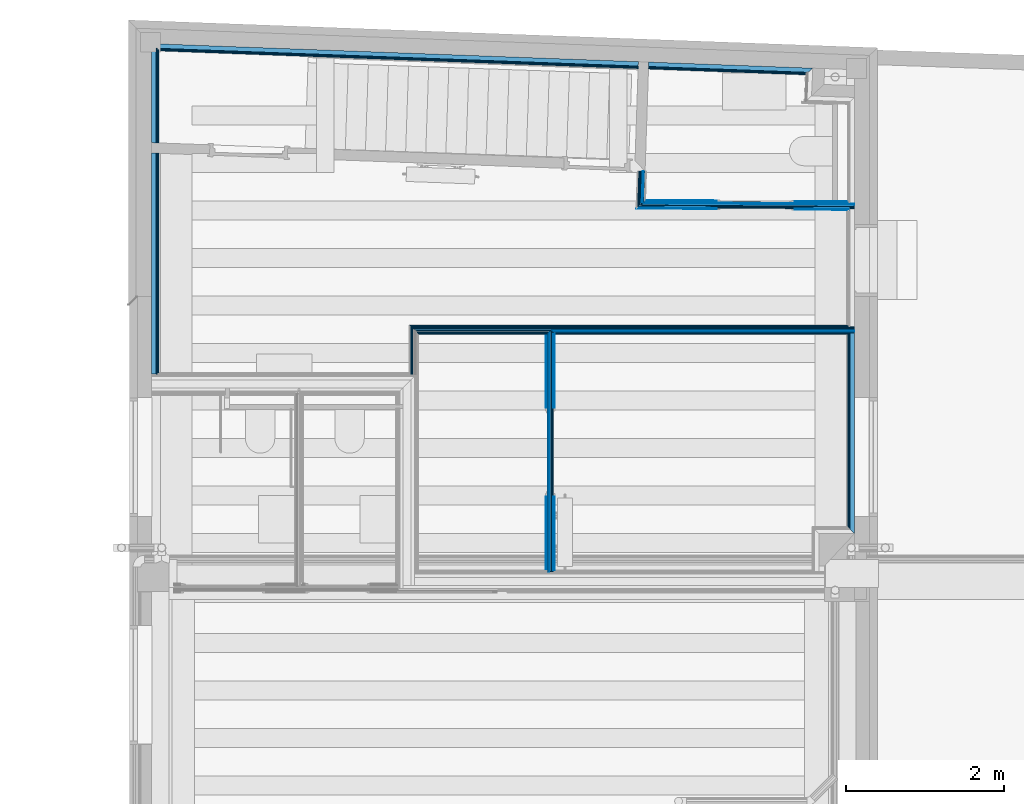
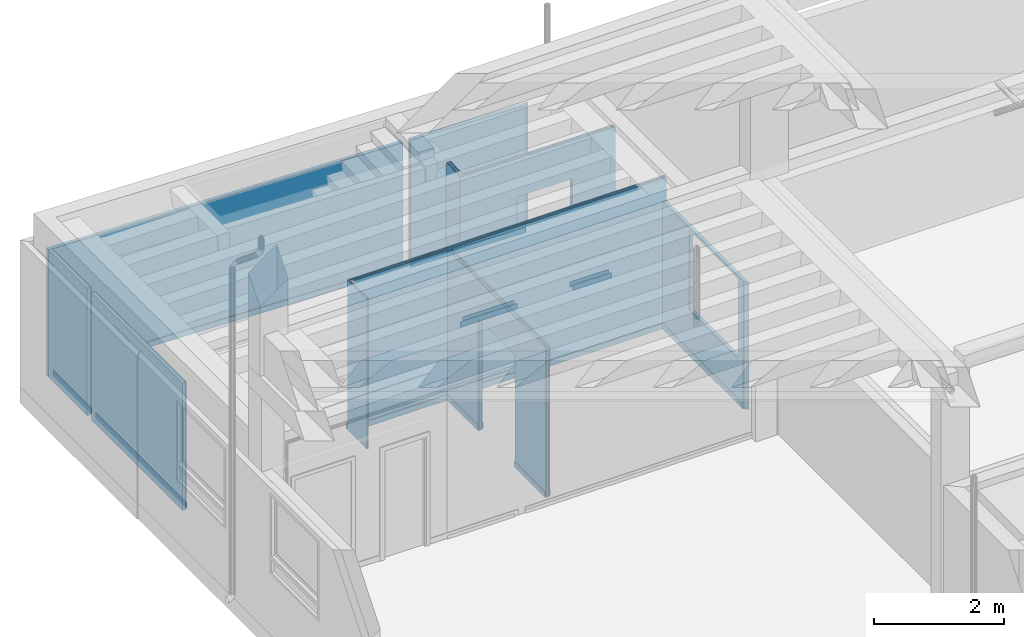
# One storey, part 11 of 108: 45 building element parts, 3 openings, 10 elements without a shape of their own.
"""IFC2X3 building model written with IfcOpenShell, lengths in metres."""

from ifc_helpers import new_model, entity, si_unit, converted_unit, derived_unit, money_unit, direction, frame, frame_2d, origin_with_axes, place, context, subcontext, project, spatial, polyline, rectangle, outline, extrude, faceted_brep, material, type_object, element, aggregate, save


model = new_model("IFC2X3")

# Units and contexts
model_context = context("Model", 3, precision=1e-05, world=origin_with_axes(), true_north=direction((0.0, 1.0)))
body_context = subcontext(model_context, "Body", "Model", "MODEL_VIEW", scale=1.0)
ifc_project = project(units=[si_unit("LENGTHUNIT", "METRE"), si_unit("AREAUNIT", "SQUARE_METRE"), si_unit("VOLUMEUNIT", "CUBIC_METRE"), si_unit("ABSORBEDDOSEUNIT", "GRAY"), si_unit("AMOUNTOFSUBSTANCEUNIT", "MOLE"), si_unit("DOSEEQUIVALENTUNIT", "SIEVERT"), si_unit("ELECTRICCAPACITANCEUNIT", "FARAD"), si_unit("ELECTRICCHARGEUNIT", "COULOMB"), si_unit("ELECTRICCONDUCTANCEUNIT", "SIEMENS"), si_unit("ELECTRICCURRENTUNIT", "AMPERE"), si_unit("ELECTRICRESISTANCEUNIT", "OHM"), si_unit("ELECTRICVOLTAGEUNIT", "VOLT"), si_unit("ENERGYUNIT", "JOULE"), si_unit("FORCEUNIT", "NEWTON"), si_unit("FREQUENCYUNIT", "HERTZ"), si_unit("ILLUMINANCEUNIT", "LUX"), si_unit("INDUCTANCEUNIT", "HENRY"), si_unit("LUMINOUSFLUXUNIT", "LUMEN"), si_unit("LUMINOUSINTENSITYUNIT", "CANDELA"), si_unit("MAGNETICFLUXDENSITYUNIT", "TESLA"), si_unit("MAGNETICFLUXUNIT", "WEBER"), si_unit("MASSUNIT", "GRAM"), converted_unit("PLANEANGLEUNIT", "degree", entity("IfcReal", 0.0174532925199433), si_unit("PLANEANGLEUNIT", "RADIAN"), dimensions=[0, 0, 0, 0, 0, 0, 0]), si_unit("POWERUNIT", "WATT"), si_unit("PRESSUREUNIT", "PASCAL"), si_unit("RADIOACTIVITYUNIT", "BECQUEREL"), si_unit("SOLIDANGLEUNIT", "STERADIAN"), si_unit("THERMODYNAMICTEMPERATUREUNIT", "KELVIN"), si_unit("TIMEUNIT", "SECOND"), derived_unit("ACCELERATIONUNIT", [(si_unit("LENGTHUNIT", "METRE"), 1), (si_unit("TIMEUNIT", "SECOND"), -2)]), derived_unit("ANGULARVELOCITYUNIT", [(converted_unit("PLANEANGLEUNIT", "degree", entity("IfcReal", 0.0174532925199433), si_unit("PLANEANGLEUNIT", "RADIAN"), dimensions=[0, 0, 0, 0, 0, 0, 0]), 1), (si_unit("TIMEUNIT", "SECOND"), -1)]), derived_unit("CURVATUREUNIT", [(converted_unit("PLANEANGLEUNIT", "degree", entity("IfcReal", 0.0174532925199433), si_unit("PLANEANGLEUNIT", "RADIAN"), dimensions=[0, 0, 0, 0, 0, 0, 0]), 1), (si_unit("LENGTHUNIT", "METRE"), -1)]), derived_unit("DYNAMICVISCOSITYUNIT", [(si_unit("PRESSUREUNIT", "PASCAL"), 1), (si_unit("TIMEUNIT", "SECOND"), 1)]), derived_unit("HEATFLUXDENSITYUNIT", [(si_unit("POWERUNIT", "WATT"), 1), (si_unit("LENGTHUNIT", "METRE"), -2)]), derived_unit("HEATINGVALUEUNIT", [(si_unit("ENERGYUNIT", "JOULE"), 1), (si_unit("MASSUNIT", "GRAM"), -1)]), derived_unit("INTEGERCOUNTRATEUNIT", [(si_unit("TIMEUNIT", "SECOND"), -1)]), derived_unit("IONCONCENTRATIONUNIT", [(si_unit("MASSUNIT", "GRAM"), 1), (si_unit("VOLUMEUNIT", "CUBIC_METRE"), -1)]), derived_unit("ISOTHERMALMOISTURECAPACITYUNIT", [(si_unit("VOLUMEUNIT", "CUBIC_METRE"), 1), (si_unit("MASSUNIT", "GRAM"), -1)]), derived_unit("KINEMATICVISCOSITYUNIT", [(si_unit("AREAUNIT", "SQUARE_METRE"), 1), (si_unit("TIMEUNIT", "SECOND"), -1)]), derived_unit("LINEARFORCEUNIT", [(si_unit("FORCEUNIT", "NEWTON"), 1), (si_unit("LENGTHUNIT", "METRE"), -1)]), derived_unit("LINEARMOMENTUNIT", [(si_unit("FORCEUNIT", "NEWTON"), 1), (si_unit("LENGTHUNIT", "METRE"), -1)]), derived_unit("LINEARSTIFFNESSUNIT", [(si_unit("FORCEUNIT", "NEWTON"), 1), (si_unit("LENGTHUNIT", "METRE"), -1)]), derived_unit("LINEARVELOCITYUNIT", [(si_unit("LENGTHUNIT", "METRE"), 1), (si_unit("TIMEUNIT", "SECOND"), -1)]), derived_unit("LUMINOUSINTENSITYDISTRIBUTIONUNIT", [(si_unit("LUMINOUSINTENSITYUNIT", "CANDELA"), 1), (si_unit("LUMINOUSFLUXUNIT", "LUMEN"), -1)]), derived_unit("MASSDENSITYUNIT", [(si_unit("MASSUNIT", "GRAM"), 1), (si_unit("VOLUMEUNIT", "CUBIC_METRE"), -1)]), derived_unit("MASSFLOWRATEUNIT", [(si_unit("MASSUNIT", "GRAM"), 1), (si_unit("TIMEUNIT", "SECOND"), -1)]), derived_unit("MASSPERLENGTHUNIT", [(si_unit("MASSUNIT", "GRAM"), 1), (si_unit("LENGTHUNIT", "METRE"), -1)]), derived_unit("MODULUSOFELASTICITYUNIT", [(si_unit("FORCEUNIT", "NEWTON"), 1), (si_unit("AREAUNIT", "SQUARE_METRE"), -1)]), derived_unit("MODULUSOFLINEARSUBGRADEREACTIONUNIT", [(si_unit("FORCEUNIT", "NEWTON"), 1), (si_unit("LENGTHUNIT", "METRE"), -2)]), derived_unit("MODULUSOFROTATIONALSUBGRADEREACTIONUNIT", [(si_unit("FORCEUNIT", "NEWTON"), 1), (si_unit("LENGTHUNIT", "METRE"), 1)]), derived_unit("MODULUSOFSUBGRADEREACTIONUNIT", [(si_unit("FORCEUNIT", "NEWTON"), 1), (si_unit("VOLUMEUNIT", "CUBIC_METRE"), -1)]), derived_unit("MOISTUREDIFFUSIVITYUNIT", [(si_unit("VOLUMEUNIT", "CUBIC_METRE"), 1), (si_unit("TIMEUNIT", "SECOND"), -1)]), derived_unit("MOLECULARWEIGHTUNIT", [(si_unit("MASSUNIT", "GRAM"), 1), (si_unit("AMOUNTOFSUBSTANCEUNIT", "MOLE"), -1)]), derived_unit("PLANARFORCEUNIT", [(si_unit("FORCEUNIT", "NEWTON"), 1), (si_unit("LENGTHUNIT", "METRE"), -2)]), derived_unit("ROTATIONALFREQUENCYUNIT", [(si_unit("TIMEUNIT", "SECOND"), -1)]), derived_unit("ROTATIONALMASSUNIT", [(si_unit("MASSUNIT", "GRAM"), 1), (si_unit("LENGTHUNIT", "METRE"), 2)]), derived_unit("ROTATIONALSTIFFNESSUNIT", [(si_unit("FORCEUNIT", "NEWTON"), 1), (si_unit("LENGTHUNIT", "METRE"), 1), (converted_unit("PLANEANGLEUNIT", "degree", entity("IfcReal", 0.0174532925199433), si_unit("PLANEANGLEUNIT", "RADIAN"), dimensions=[0, 0, 0, 0, 0, 0, 0]), -1)]), derived_unit("SECTIONAREAINTEGRALUNIT", [(si_unit("LENGTHUNIT", "METRE"), 5)]), derived_unit("SECTIONMODULUSUNIT", [(si_unit("LENGTHUNIT", "METRE"), 3)]), derived_unit("SHEARMODULUSUNIT", [(si_unit("FORCEUNIT", "NEWTON"), 1), (si_unit("AREAUNIT", "SQUARE_METRE"), -1)]), derived_unit("SOUNDPOWERUNIT", [(si_unit("ENERGYUNIT", "JOULE"), 1), (si_unit("TIMEUNIT", "SECOND"), -1)]), derived_unit("SPECIFICHEATCAPACITYUNIT", [(si_unit("FORCEUNIT", "NEWTON"), 1), (si_unit("MASSUNIT", "GRAM"), -1), (si_unit("THERMODYNAMICTEMPERATUREUNIT", "KELVIN"), -1)]), derived_unit("TEMPERATUREGRADIENTUNIT", [(si_unit("THERMODYNAMICTEMPERATUREUNIT", "KELVIN"), 1), (si_unit("LENGTHUNIT", "METRE"), -1)]), derived_unit("THERMALADMITTANCEUNIT", [(si_unit("POWERUNIT", "WATT"), 1), (si_unit("AREAUNIT", "SQUARE_METRE"), -1), (si_unit("THERMODYNAMICTEMPERATUREUNIT", "KELVIN"), -1)]), derived_unit("THERMALCONDUCTANCEUNIT", [(si_unit("POWERUNIT", "WATT"), 1), (si_unit("LENGTHUNIT", "METRE"), -1), (si_unit("THERMODYNAMICTEMPERATUREUNIT", "KELVIN"), -1)]), derived_unit("THERMALEXPANSIONCOEFFICIENTUNIT", [(si_unit("THERMODYNAMICTEMPERATUREUNIT", "KELVIN"), -1)]), derived_unit("THERMALRESISTANCEUNIT", [(si_unit("AREAUNIT", "SQUARE_METRE"), 1), (si_unit("POWERUNIT", "WATT"), -1)]), derived_unit("THERMALTRANSMITTANCEUNIT", [(si_unit("POWERUNIT", "WATT"), 1), (si_unit("AREAUNIT", "SQUARE_METRE"), -1), (si_unit("THERMODYNAMICTEMPERATUREUNIT", "KELVIN"), -1)]), derived_unit("TORQUEUNIT", [(si_unit("FORCEUNIT", "NEWTON"), 1), (si_unit("LENGTHUNIT", "METRE"), 1)]), derived_unit("VAPORPERMEABILITYUNIT", [(si_unit("MASSUNIT", "GRAM"), 1), (si_unit("TIMEUNIT", "SECOND"), -1)]), derived_unit("VOLUMETRICFLOWRATEUNIT", [(si_unit("VOLUMEUNIT", "CUBIC_METRE"), 1), (si_unit("TIMEUNIT", "SECOND"), -1)]), derived_unit("WARPINGCONSTANTUNIT", [(si_unit("LENGTHUNIT", "METRE"), 6)]), derived_unit("WARPINGMOMENTUNIT", [(si_unit("FORCEUNIT", "NEWTON"), 1), (si_unit("LENGTHUNIT", "METRE"), 2)]), money_unit("GBP")], contexts=[model_context])

# Site, building, storey
site_placement = place(None, origin_with_axes())
site = spatial("IfcSite", under=ifc_project, at=site_placement, Name="Site", CompositionType="ELEMENT")
building_placement = place(site_placement, origin_with_axes())
building = spatial("IfcBuilding", under=site, at=building_placement, Name="Building01", CompositionType="ELEMENT")
storey_placement = place(building_placement, origin_with_axes())
storey = spatial("IfcBuildingStorey", under=building, at=storey_placement, Name="GF", CompositionType="ELEMENT", Elevation=0.0)

# Wall, building element parts
wall_type_1 = type_object("IfcWallType", Name="SHE_A-Walls_Type05b_Partition_80mm", PredefinedType="NOTDEFINED")
wall_1_placement = place(storey_placement, frame((3.603525, 17.143647, 0.148), z_axis=(0.0, 0.0, 1.0), x_axis=(0.0, 1.0, 0.0)))
wall_1 = element("IfcWall", 1, at=wall_1_placement, inside=storey, type_object=wall_type_1, Name="5B", ObjectType="SHE_A-Walls_Type05b_Partition_80mm")
ifc_material_1 = material(Name="Air Cavity")
placement_1 = place(wall_1_placement, origin_with_axes())
building_element_part_1 = element("IfcBuildingElementPart", 2, at=placement_1, material=ifc_material_1, Name="5", context=body_context, shape_type="SweptSolid", body=[
    extrude(outline(polyline([(0.584924, 0.038), (0.0, 0.038), (0.0, 0.025), (0.571924, 0.025), (0.584924, 0.038)])), origin_with_axes(), (0.0, 0.0, 1.0), 2.812),
])
ifc_material_2 = material(Name="A_BSUK_WallInternal_Finishes_Plasterboard")
building_element_part_2 = element("IfcBuildingElementPart", 3, at=placement_1, material=ifc_material_2, Name="6", context=body_context, shape_type="SweptSolid", body=[
    extrude(outline(polyline([(0.599924, 0.053), (0.0, 0.053), (0.0, 0.038), (0.584924, 0.038), (0.599924, 0.053)])), origin_with_axes(), (0.0, 0.0, 1.0), 2.812),
])
aggregate(wall_1, [building_element_part_1, building_element_part_2])

wall_2_placement = place(storey_placement, frame((3.603525, 17.690571, 0.148), z_axis=(0.0, 0.0, 1.0), x_axis=(1.0, 0.0, 0.0)))
wall_2 = element("IfcWall", 4, at=wall_2_placement, inside=storey, type_object=wall_type_1, Name="5B", ObjectType="SHE_A-Walls_Type05b_Partition_80mm")
ifc_material_3 = material(Name="A_BSUK_Walls_Timber")
placement_2 = place(wall_2_placement, origin_with_axes())
building_element_part_3 = element("IfcBuildingElementPart", 5, at=placement_2, material=ifc_material_3, Name="1", context=body_context, shape_type="SweptSolid", body=[
    extrude(outline(polyline([(1.670731, -0.027), (0.027, -0.027), (0.042, -0.042), (1.670731, -0.042), (1.670731, -0.027)])), frame((0.0, 0.0, 0.015), z_axis=(0.0, 0.0, 1.0), x_axis=(1.0, 0.0, 0.0)), (0.0, 0.0, 1.0), 0.1),
])
building_element_part_4 = element("IfcBuildingElementPart", 6, at=placement_2, material=ifc_material_3, Name="2", context=body_context, shape_type="SweptSolid", body=[
    extrude(rectangle(XDim=3.728009, YDim=0.015, at=frame_2d((3.614736, -0.0345), x_axis=(-1.0, 0.0))), frame((0.0, 0.0, 0.015), z_axis=(0.0, 0.0, 1.0), x_axis=(1.0, 0.0, 0.0)), (0.0, 0.0, 1.0), 0.1),
])
building_element_part_5 = element("IfcBuildingElementPart", 7, at=placement_2, material=ifc_material_2, Name="3", context=body_context, shape_type="SweptSolid", body=[
    extrude(outline(polyline([(1.685731, -0.012), (0.012, -0.012), (0.027, -0.027), (1.685731, -0.027), (1.685731, -0.012)])), origin_with_axes(), (0.0, 0.0, 1.0), 2.812),
])
building_element_part_6 = element("IfcBuildingElementPart", 8, at=placement_2, material=ifc_material_2, Name="4", context=body_context, shape_type="SweptSolid", body=[
    extrude(rectangle(XDim=3.815009, YDim=0.015, at=frame_2d((3.643236, -0.0195), x_axis=(-1.0, 0.0))), origin_with_axes(), (0.0, 0.0, 1.0), 2.812),
])
building_element_part_7 = element("IfcBuildingElementPart", 9, at=placement_2, material=ifc_material_1, Name="5", context=body_context, shape_type="SweptSolid", body=[
    extrude(rectangle(XDim=3.815009, YDim=0.012, at=frame_2d((3.643236, -0.006), x_axis=(-1.0, 0.0))), origin_with_axes(), (0.0, 0.0, 1.0), 2.812),
])
ifc_material_4 = material(Name="A_BSUK_Insulation")
building_element_part_8 = element("IfcBuildingElementPart", 10, at=placement_2, material=ifc_material_4, Name="6", context=body_context, shape_type="SweptSolid", body=[
    extrude(outline(polyline([(5.55074, 0.025), (-0.025, 0.025), (0.0, 0.0), (5.55074, 0.0), (5.55074, 0.025)])), origin_with_axes(), (0.0, 0.0, 1.0), 2.812),
])
building_element_part_9 = element("IfcBuildingElementPart", 11, at=placement_2, material=ifc_material_1, Name="7", context=body_context, shape_type="SweptSolid", body=[
    extrude(outline(polyline([(5.55074, 0.038), (-0.038, 0.038), (-0.025, 0.025), (5.55074, 0.025), (5.55074, 0.038)])), origin_with_axes(), (0.0, 0.0, 1.0), 2.812),
])
building_element_part_10 = element("IfcBuildingElementPart", 12, at=placement_2, material=ifc_material_2, Name="8", context=body_context, shape_type="SweptSolid", body=[
    extrude(outline(polyline([(5.55074, 0.053), (-0.053, 0.053), (-0.038, 0.038), (5.55074, 0.038), (5.55074, 0.053)])), origin_with_axes(), (0.0, 0.0, 1.0), 2.812),
])
building_element_part_11 = element("IfcBuildingElementPart", 13, at=placement_2, material=ifc_material_3, Name="9", context=body_context, shape_type="SweptSolid", body=[
    extrude(outline(polyline([(5.47874, 0.068), (-0.068, 0.068), (-0.053, 0.053), (5.47874, 0.053), (5.47874, 0.068)])), frame((0.0, 0.0, 0.015), z_axis=(0.0, 0.0, 1.0), x_axis=(1.0, 0.0, 0.0)), (0.0, 0.0, 1.0), 0.1),
])
aggregate(wall_2, [building_element_part_3, building_element_part_4, building_element_part_5, building_element_part_6, building_element_part_7, building_element_part_8, building_element_part_9, building_element_part_10, building_element_part_11])

wall_3_placement = place(storey_placement, frame((6.468779, 19.273593, 0.148), z_axis=(0.0, 0.0, 1.0), x_axis=(0.03365301, 0.99943358, 0.0)))
wall_3 = element("IfcWall", 14, at=wall_3_placement, inside=storey, type_object=wall_type_1, Name="5B", ObjectType="SHE_A-Walls_Type05b_Partition_80mm")
placement_3 = place(wall_3_placement, origin_with_axes())
building_element_part_12 = element("IfcBuildingElementPart", 15, at=placement_3, material=ifc_material_2, Name="2", context=body_context, shape_type="SweptSolid", body=[
    extrude(outline(polyline([(0.430451, -0.012), (0.037337, -0.012), (0.037741, -0.027), (0.430401, -0.027), (0.430451, -0.012)])), origin_with_axes(), (0.0, 0.0, 1.0), 2.812),
])
building_element_part_13 = element("IfcBuildingElementPart", 16, at=placement_3, material=ifc_material_1, Name="3", context=body_context, shape_type="SweptSolid", body=[
    extrude(outline(polyline([(0.430491, 0.0), (0.037013, 0.0), (0.037337, -0.012), (0.430451, -0.012), (0.430491, 0.0)])), origin_with_axes(), (0.0, 0.0, 1.0), 2.812),
])
building_element_part_14 = element("IfcBuildingElementPart", 17, at=placement_3, material=ifc_material_4, Name="4", context=body_context, shape_type="SweptSolid", body=[
    extrude(outline(polyline([(0.430574, 0.025), (-0.000674, 0.025), (0.0, 0.0), (0.430491, 0.0), (0.430574, 0.025)])), origin_with_axes(), (0.0, 0.0, 1.0), 2.812),
])
building_element_part_15 = element("IfcBuildingElementPart", 18, at=placement_3, material=ifc_material_1, Name="5", context=body_context, shape_type="SweptSolid", body=[
    extrude(outline(polyline([(0.430617, 0.038), (-0.001024, 0.038), (-0.000674, 0.025), (0.430574, 0.025), (0.430617, 0.038)])), origin_with_axes(), (0.0, 0.0, 1.0), 2.812),
])
building_element_part_16 = element("IfcBuildingElementPart", 19, at=placement_3, material=ifc_material_2, Name="6", context=body_context, shape_type="SweptSolid", body=[
    extrude(outline(polyline([(0.430666, 0.053), (-0.029439, 0.053), (-0.014029, 0.038), (0.430617, 0.038), (0.430666, 0.053)])), origin_with_axes(), (0.0, 0.0, 1.0), 2.812),
])
aggregate(wall_3, [building_element_part_12, building_element_part_13, building_element_part_14, building_element_part_15, building_element_part_16])

# Wall, opening, building element parts
wall_4_placement = place(storey_placement, frame((9.154265, 19.280573, 0.148), z_axis=(0.0, 0.0, 1.0), x_axis=(-0.99997749, 0.00671026, 0.0)))
wall_4 = element("IfcWall", 20, at=wall_4_placement, inside=storey, type_object=wall_type_1, Name="5B", ObjectType="SHE_A-Walls_Type05b_Partition_80mm")
opening_1_placement = place(wall_4_placement, frame((0.755168, -0.042, 0.0), z_axis=(0.0, 0.0, 1.0), x_axis=(1.0, 0.0, 0.0)))
element("IfcOpeningElement", 21, at=opening_1_placement, cuts=wall_4, Name="Opening", ObjectType="Opening", context=body_context, shape_type="Brep", body=[
    faceted_brep([(0.000237, 0.095, 0.015), (0.98424, 0.095, 0.015), (0.98424, 0.095, 0.0), (0.000237, 0.095, 0.0), (0.000199, 0.08, 2.1), (0.000199, 0.08, 0.0), (0.000152, 0.08, 0.0), (0.000152, 0.08, 2.1), (0.984123, 0.067, 0.0), (0.984123, 0.067, 2.1), (0.98417, 0.067, 2.1), (0.98417, 0.067, 0.0), (0.000105, 0.042, 2.1), (0.000105, 0.042, 0.0), (7.1e-05, 0.042, 0.0), (7.1e-05, 0.042, 2.1), (0.984044, 0.03, 0.0), (0.984044, 0.03, 2.1), (0.984078, 0.03, 2.1), (0.984078, 0.03, 0.0), (3.7e-05, 0.015, 0.115), (0.0, 0.0, 0.115), (0.984003, 0.0, 0.115), (0.98404, 0.015, 0.115), (0.0, 0.0, 0.015), (0.984003, 0.0, 0.015), (3.7e-05, 0.015, 0.015), (0.98404, 0.015, 0.015), (0.98404, 0.015, 0.0), (0.98404, 0.015, 2.1), (3.7e-05, 0.015, 2.1), (7.5e-05, 0.03, 2.1), (7.5e-05, 0.03, 0.0), (3.7e-05, 0.015, 0.0), (4.1e-05, 0.03, 0.0), (0.000167, 0.067, 0.0), (0.00012, 0.067, 0.0), (0.984202, 0.08, 0.0), (0.984155, 0.08, 0.0), (0.984108, 0.042, 0.0), (0.984074, 0.042, 0.0), (0.984074, 0.042, 2.1), (0.984108, 0.042, 2.1), (0.984155, 0.08, 2.1), (0.984202, 0.08, 2.1), (0.98424, 0.095, 2.1), (0.000237, 0.095, 2.1), (0.00012, 0.067, 2.1), (0.000167, 0.067, 2.1), (4.1e-05, 0.03, 2.1), (0.000237, 0.095, 0.115), (0.98424, 0.095, 0.115), (0.000274, 0.11, 0.115), (0.000274, 0.11, 0.015), (0.984277, 0.11, 0.015), (0.984277, 0.11, 0.115)], [[[0, 1, 2, 3]], [[4, 5, 6, 7]], [[8, 9, 10, 11]], [[12, 13, 14, 15]], [[16, 17, 18, 19]], [[20, 21, 22, 23]], [[21, 24, 25, 22]], [[24, 26, 27, 25]], [[22, 25, 27, 28, 19, 18, 29, 23]], [[20, 30, 31, 32, 33, 26, 24, 21]], [[23, 29, 30, 20]], [[27, 26, 33, 28]], [[33, 32, 34, 14, 13, 35, 36, 6, 5, 3, 2, 37, 38, 8, 11, 39, 40, 16, 19, 28]], [[29, 18, 17, 41, 42, 10, 9, 43, 44, 45, 46, 4, 7, 47, 48, 12, 15, 49, 31, 30]], [[32, 31, 49, 34]], [[49, 15, 14, 34]], [[16, 40, 41, 17]], [[41, 40, 39, 42]], [[12, 48, 35, 13]], [[39, 11, 10, 42]], [[35, 48, 47, 36]], [[47, 7, 6, 36]], [[8, 38, 43, 9]], [[43, 38, 37, 44]], [[50, 46, 45, 51]], [[4, 46, 50, 52, 53, 0, 3, 5]], [[37, 2, 1, 54, 55, 51, 45, 44]], [[52, 50, 51, 55]], [[53, 52, 55, 54]], [[0, 53, 54, 1]]]),
])
placement_4 = place(wall_4_placement, origin_with_axes())
building_element_part_17 = element("IfcBuildingElementPart", 22, at=placement_4, material=ifc_material_3, Name="1", context=body_context, shape_type="SweptSolid", body=[
    extrude(outline(polyline([(2.656967, -0.027), (0.072183, -0.027), (0.072283, -0.042), (2.640715, -0.042), (2.656967, -0.027)])), frame((0.0, 0.0, 0.015), z_axis=(0.0, 0.0, 1.0), x_axis=(1.0, 0.0, 0.0)), (0.0, 0.0, 1.0), 0.1),
])
building_element_part_18 = element("IfcBuildingElementPart", 23, at=placement_4, material=ifc_material_2, Name="2", context=body_context, shape_type="SweptSolid", body=[
    extrude(outline(polyline([(2.657371, -0.012), (8.1e-05, -0.012), (0.000181, -0.027), (2.656967, -0.027), (2.657371, -0.012)])), origin_with_axes(), (0.0, 0.0, 1.0), 2.812),
])
building_element_part_19 = element("IfcBuildingElementPart", 24, at=placement_4, material=ifc_material_1, Name="3", context=body_context, shape_type="SweptSolid", body=[
    extrude(outline(polyline([(2.657695, 0.0), (0.0, 0.0), (8.1e-05, -0.012), (2.657371, -0.012), (2.657695, 0.0)])), origin_with_axes(), (0.0, 0.0, 1.0), 2.812),
])
building_element_part_20 = element("IfcBuildingElementPart", 25, at=placement_4, material=ifc_material_4, Name="4", context=body_context, shape_type="SweptSolid", body=[
    extrude(outline(polyline([(2.685378, 0.025), (-0.000168, 0.025), (0.0, 0.0), (2.684705, 0.0), (2.685378, 0.025)])), origin_with_axes(), (0.0, 0.0, 1.0), 2.812),
])
building_element_part_21 = element("IfcBuildingElementPart", 26, at=placement_4, material=ifc_material_1, Name="5", context=body_context, shape_type="SweptSolid", body=[
    extrude(outline(polyline([(2.685729, 0.038), (-0.000255, 0.038), (-0.000168, 0.025), (2.685378, 0.025), (2.685729, 0.038)])), origin_with_axes(), (0.0, 0.0, 1.0), 2.812),
])
building_element_part_22 = element("IfcBuildingElementPart", 27, at=placement_4, material=ifc_material_2, Name="6", context=body_context, shape_type="SweptSolid", body=[
    extrude(outline(polyline([(2.739153, 0.053), (-0.000356, 0.053), (-0.000255, 0.038), (2.723743, 0.038), (2.739153, 0.053)])), origin_with_axes(), (0.0, 0.0, 1.0), 2.812),
])
building_element_part_23 = element("IfcBuildingElementPart", 28, at=placement_4, material=ifc_material_3, Name="7", context=body_context, shape_type="SweptSolid", body=[
    extrude(outline(polyline([(2.754562, 0.068), (0.071545, 0.068), (0.071646, 0.053), (2.739153, 0.053), (2.754562, 0.068)])), frame((0.0, 0.0, 0.015), z_axis=(0.0, 0.0, 1.0), x_axis=(1.0, 0.0, 0.0)), (0.0, 0.0, 1.0), 0.1),
])
aggregate(wall_4, [building_element_part_17, building_element_part_18, building_element_part_19, building_element_part_20, building_element_part_21, building_element_part_22, building_element_part_23])

wall_5_placement = place(storey_placement, frame((5.301256, 17.690571, 0.148), z_axis=(0.0, 0.0, 1.0), x_axis=(0.0, -1.0, 0.0)))
wall_5 = element("IfcWall", 29, at=wall_5_placement, inside=storey, type_object=wall_type_1, Name="5B", ObjectType="SHE_A-Walls_Type05b_Partition_80mm")
opening_2_placement = place(wall_5_placement, frame((0.971779, -0.042, -4e-06), z_axis=(0.0, 0.0, 1.0), x_axis=(1.0, 0.0, 0.0)))
element("IfcOpeningElement", 30, at=opening_2_placement, cuts=wall_5, Name="Opening", ObjectType="Opening", context=body_context, shape_type="Brep", body=[
    faceted_brep([(1.124004, 0.015, 0.015004), (4e-06, 0.015, 0.015004), (4e-06, 0.015, 4e-06), (1.124004, 0.015, 4e-06), (1.124003, 0.0, 0.015004), (3e-06, 0.0, 0.015004), (1.124003, 0.0, 0.115004), (3e-06, 0.0, 0.115004), (1.124004, 0.03, 4e-06), (1.124004, 0.015, 0.115004), (1.124004, 0.03, 2.100004), (1.124004, 0.015, 2.100004), (4e-06, 0.015, 0.115004), (4e-06, 0.015, 2.100004), (4e-06, 0.03, 2.100004), (4e-06, 0.03, 4e-06), (1.124005, 0.042, 2.100004), (1.124006, 0.067, 2.100004), (1.124005, 0.067, 2.100004), (1.124006, 0.08, 2.100004), (1.124007, 0.095, 2.100004), (7e-06, 0.095, 2.100004), (6e-06, 0.08, 2.100004), (5e-06, 0.067, 2.100004), (6e-06, 0.067, 2.100004), (5e-06, 0.042, 2.100004), (5e-06, 0.042, 4e-06), (6e-06, 0.067, 4e-06), (5e-06, 0.067, 4e-06), (6e-06, 0.08, 4e-06), (7e-06, 0.095, 4e-06), (1.124007, 0.095, 4e-06), (1.124006, 0.08, 4e-06), (1.124005, 0.067, 4e-06), (1.124006, 0.067, 4e-06), (1.124005, 0.042, 4e-06), (7e-06, 0.095, 0.115004), (8e-06, 0.11, 0.115004), (8e-06, 0.11, 0.015004), (7e-06, 0.095, 0.015004), (1.124007, 0.095, 0.015004), (1.124008, 0.11, 0.015004), (1.124008, 0.11, 0.115004), (1.124007, 0.095, 0.115004)], [[[0, 1, 2, 3]], [[0, 4, 5, 1]], [[4, 6, 7, 5]], [[0, 3, 8, 9]], [[8, 10, 11, 9]], [[9, 6, 4, 0]], [[12, 13, 14, 15]], [[1, 5, 7, 12]], [[12, 15, 2, 1]], [[6, 9, 12, 7]], [[9, 11, 13, 12]], [[11, 10, 16, 17, 18, 19, 19, 20, 21, 22, 22, 23, 24, 25, 14, 13]], [[15, 26, 27, 28, 29, 29, 30, 31, 32, 32, 33, 34, 35, 8, 3, 2]], [[8, 35, 16, 10]], [[35, 34, 17, 16]], [[33, 18, 17, 34]], [[33, 32, 19, 18]], [[19, 32, 32, 19]], [[14, 25, 26, 15]], [[25, 24, 27, 26]], [[27, 24, 23, 28]], [[23, 22, 29, 28]], [[22, 29, 29, 22]], [[22, 21, 36, 37, 38, 39, 30, 29]], [[32, 31, 40, 41, 42, 43, 20, 19]], [[36, 21, 20, 43]], [[43, 42, 37, 36]], [[42, 41, 38, 37]], [[41, 40, 39, 38]], [[39, 40, 31, 30]]]),
])
placement_5 = place(wall_5_placement, origin_with_axes())
building_element_part_24 = element("IfcBuildingElementPart", 31, at=placement_5, material=ifc_material_3, Name="1", context=body_context, shape_type="SweptSolid", body=[
    extrude(rectangle(XDim=2.983571, YDim=0.015, at=frame_2d((1.533786, -0.0345), x_axis=(-1.0, 0.0))), frame((0.0, 0.0, 0.015), z_axis=(0.0, 0.0, 1.0), x_axis=(1.0, 0.0, 0.0)), (0.0, 0.0, 1.0), 0.1),
])
building_element_part_25 = element("IfcBuildingElementPart", 32, at=placement_5, material=ifc_material_2, Name="2", context=body_context, shape_type="SweptSolid", body=[
    extrude(rectangle(XDim=3.013571, YDim=0.015, at=frame_2d((1.533786, -0.0195), x_axis=(-1.0, 0.0))), origin_with_axes(), (0.0, 0.0, 1.0), 2.812),
])
building_element_part_26 = element("IfcBuildingElementPart", 33, at=placement_5, material=ifc_material_1, Name="3", context=body_context, shape_type="SweptSolid", body=[
    extrude(rectangle(XDim=3.013571, YDim=0.012, at=frame_2d((1.533786, -0.006), x_axis=(-1.0, 0.0))), origin_with_axes(), (0.0, 0.0, 1.0), 2.812),
])
building_element_part_27 = element("IfcBuildingElementPart", 34, at=placement_5, material=ifc_material_4, Name="4", context=body_context, shape_type="SweptSolid", body=[
    extrude(rectangle(XDim=3.040571, YDim=0.025, at=frame_2d((1.520286, 0.0125), x_axis=(-1.0, 0.0))), origin_with_axes(), (0.0, 0.0, 1.0), 2.812),
])
building_element_part_28 = element("IfcBuildingElementPart", 35, at=placement_5, material=ifc_material_1, Name="5", context=body_context, shape_type="SweptSolid", body=[
    extrude(rectangle(XDim=3.040571, YDim=0.013, at=frame_2d((1.520286, 0.0315), x_axis=(-1.0, 0.0))), origin_with_axes(), (0.0, 0.0, 1.0), 2.812),
])
building_element_part_29 = element("IfcBuildingElementPart", 36, at=placement_5, material=ifc_material_2, Name="6", context=body_context, shape_type="SweptSolid", body=[
    extrude(rectangle(XDim=3.013571, YDim=0.015, at=frame_2d((1.533786, 0.0455), x_axis=(-1.0, 0.0))), origin_with_axes(), (0.0, 0.0, 1.0), 2.812),
])
building_element_part_30 = element("IfcBuildingElementPart", 37, at=placement_5, material=ifc_material_3, Name="7", context=body_context, shape_type="SweptSolid", body=[
    extrude(rectangle(XDim=2.983571, YDim=0.015, at=frame_2d((1.533786, 0.0605), x_axis=(-1.0, 0.0))), frame((0.0, 0.0, 0.015), z_axis=(0.0, 0.0, 1.0), x_axis=(1.0, 0.0, 0.0)), (0.0, 0.0, 1.0), 0.1),
])
aggregate(wall_5, [building_element_part_24, building_element_part_25, building_element_part_26, building_element_part_27, building_element_part_28, building_element_part_29, building_element_part_30])

# Wall, building element parts
wall_type_2 = type_object("IfcWallType", Name="SHE_A-Walls_Type06c_ExternalWallInsulation_60mm", PredefinedType="NOTDEFINED")
wall_6_placement = place(storey_placement, frame((0.28086, 19.933294, 0.148), z_axis=(0.0, 0.0, 1.0), x_axis=(0.0, -1.0, 0.0)))
wall_6 = element("IfcWall", 38, at=wall_6_placement, inside=storey, type_object=wall_type_2, Name="6C", ObjectType="SHE_A-Walls_Type06c_ExternalWallInsulation_60mm")
placement_6 = place(wall_6_placement, origin_with_axes())
building_element_part_31 = element("IfcBuildingElementPart", 39, at=placement_6, material=ifc_material_4, Name="1", context=body_context, shape_type="SweptSolid", body=[
    extrude(outline(polyline([(2.789647, 0.06), (0.00222, 0.06), (0.0, 0.0), (2.789647, 0.0), (2.789647, 0.06)])), origin_with_axes(), (0.0, 0.0, 1.0), 2.387),
])
building_element_part_32 = element("IfcBuildingElementPart", 40, at=placement_6, material=ifc_material_2, Name="2", context=body_context, shape_type="SweptSolid", body=[
    extrude(outline(polyline([(2.789647, 0.072), (0.002664, 0.072), (0.002183, 0.059), (2.789647, 0.059), (2.789647, 0.072)])), origin_with_axes(), (0.0, 0.0, 1.0), 2.387),
])
building_element_part_33 = element("IfcBuildingElementPart", 41, at=placement_6, material=ifc_material_3, Name="3", context=body_context, shape_type="SweptSolid", body=[
    extrude(outline(polyline([(2.774647, 0.087), (0.003219, 0.087), (0.002664, 0.072), (2.774647, 0.072), (2.774647, 0.087)])), frame((0.0, 0.0, 0.015), z_axis=(0.0, 0.0, 1.0), x_axis=(1.0, 0.0, 0.0)), (0.0, 0.0, 1.0), 0.1),
])
aggregate(wall_6, [building_element_part_31, building_element_part_32, building_element_part_33])

wall_7_placement = place(storey_placement, frame((0.280897, 21.255083, 0.148), z_axis=(0.0, 0.0, 1.0), x_axis=(0.0, -1.0, 0.0)))
wall_7 = element("IfcWall", 42, at=wall_7_placement, inside=storey, type_object=wall_type_2, Name="6C", ObjectType="SHE_A-Walls_Type06c_ExternalWallInsulation_60mm")
placement_7 = place(wall_7_placement, origin_with_axes())
building_element_part_34 = element("IfcBuildingElementPart", 43, at=placement_7, material=ifc_material_4, Name="1", context=body_context, shape_type="SweptSolid", body=[
    extrude(outline(polyline([(1.19292, 0.06), (0.002226, 0.06), (0.0, 0.0), (1.190701, 0.0), (1.19292, 0.06)])), origin_with_axes(), (0.0, 0.0, 1.0), 2.387),
])
building_element_part_35 = element("IfcBuildingElementPart", 44, at=placement_7, material=ifc_material_2, Name="2", context=body_context, shape_type="SweptSolid", body=[
    extrude(outline(polyline([(1.193364, 0.072), (0.00167, 0.072), (0.001188, 0.059), (1.192883, 0.059), (1.193364, 0.072)])), origin_with_axes(), (0.0, 0.0, 1.0), 2.387),
])
building_element_part_36 = element("IfcBuildingElementPart", 45, at=placement_7, material=ifc_material_3, Name="3", context=body_context, shape_type="SweptSolid", body=[
    extrude(outline(polyline([(1.193919, 0.087), (0.015236, 0.087), (0.014679, 0.072), (1.193364, 0.072), (1.193919, 0.087)])), frame((0.0, 0.0, 0.015), z_axis=(0.0, 0.0, 1.0), x_axis=(1.0, 0.0, 0.0)), (0.0, 0.0, 1.0), 0.1),
])
aggregate(wall_7, [building_element_part_34, building_element_part_35, building_element_part_36])

wall_8_placement = place(storey_placement, frame((6.425526, 21.087171, 0.148), z_axis=(0.0, 0.0, 1.0), x_axis=(-0.99931258, 0.03707243, 0.0)))
wall_8 = element("IfcWall", 46, at=wall_8_placement, inside=storey, type_object=wall_type_2, Name="6C", ObjectType="SHE_A-Walls_Type06c_ExternalWallInsulation_60mm")
placement_8 = place(wall_8_placement, origin_with_axes())
building_element_part_37 = element("IfcBuildingElementPart", 47, at=placement_8, material=ifc_material_4, Name="1", context=body_context, shape_type="SweptSolid", body=[
    extrude(outline(polyline([(6.14663, 0.06), (0.0, 0.06), (0.0, 0.0), (6.148856, 0.0), (6.14663, 0.06)])), origin_with_axes(), (0.0, 0.0, 1.0), 2.387),
])
building_element_part_38 = element("IfcBuildingElementPart", 48, at=placement_8, material=ifc_material_2, Name="2", context=body_context, shape_type="SweptSolid", body=[
    extrude(outline(polyline([(6.074136, 0.072), (0.0, 0.072), (0.0, 0.059), (6.074618, 0.059), (6.074136, 0.072)])), origin_with_axes(), (0.0, 0.0, 1.0), 2.387),
])
building_element_part_39 = element("IfcBuildingElementPart", 49, at=placement_8, material=ifc_material_3, Name="3", context=body_context, shape_type="SweptSolid", body=[
    extrude(outline(polyline([(6.058569, 0.087), (0.0, 0.087), (0.0, 0.072), (6.059125, 0.072), (6.058569, 0.087)])), frame((0.0, 0.0, 0.015), z_axis=(0.0, 0.0, 1.0), x_axis=(1.0, 0.0, 0.0)), (0.0, 0.0, 1.0), 0.1),
])
aggregate(wall_8, [building_element_part_37, building_element_part_38, building_element_part_39])

wall_9_placement = place(storey_placement, frame((8.628099, 21.00546, 0.148), z_axis=(0.0, 0.0, 1.0), x_axis=(-0.99931258, 0.03707243, 0.0)))
wall_9 = element("IfcWall", 50, at=wall_9_placement, inside=storey, type_object=wall_type_2, Name="6C", ObjectType="SHE_A-Walls_Type06c_ExternalWallInsulation_60mm")
placement_9 = place(wall_9_placement, origin_with_axes())
building_element_part_40 = element("IfcBuildingElementPart", 51, at=placement_9, material=ifc_material_4, Name="1", context=body_context, shape_type="SweptSolid", body=[
    extrude(outline(polyline([(0.060549, 0.06), (0.0, 0.0), (2.072827, 0.0), (2.072827, 0.06), (0.060549, 0.06)])), origin_with_axes(), (0.0, 0.0, 1.0), 2.387),
])
building_element_part_41 = element("IfcBuildingElementPart", 52, at=placement_9, material=ifc_material_2, Name="2", context=body_context, shape_type="SweptSolid", body=[
    extrude(outline(polyline([(0.072658, 0.072), (0.059539, 0.059), (2.072827, 0.059), (2.072827, 0.072), (0.072658, 0.072)])), origin_with_axes(), (0.0, 0.0, 1.0), 2.387),
])
building_element_part_42 = element("IfcBuildingElementPart", 53, at=placement_9, material=ifc_material_3, Name="3", context=body_context, shape_type="SweptSolid", body=[
    extrude(outline(polyline([(0.087795, 0.087), (0.072658, 0.072), (2.072827, 0.072), (2.072827, 0.087), (0.087795, 0.087)])), frame((0.0, 0.0, 0.015), z_axis=(0.0, 0.0, 1.0), x_axis=(1.0, 0.0, 0.0)), (0.0, 0.0, 1.0), 0.1),
])
aggregate(wall_9, [building_element_part_40, building_element_part_41, building_element_part_42])

# Wall, opening, building element parts
wall_10_placement = place(storey_placement, frame((9.154265, 15.127892, 0.148), z_axis=(0.0, 0.0, 1.0), x_axis=(0.0, 1.0, 0.0)))
wall_10 = element("IfcWall", 54, at=wall_10_placement, inside=storey, type_object=wall_type_2, Name="6C", ObjectType="SHE_A-Walls_Type06c_ExternalWallInsulation_60mm")
opening_3_placement = place(wall_10_placement, frame((0.216921, 0.0, 0.85), z_axis=(0.0, 0.0, 1.0), x_axis=(1.0, 0.0, 0.0)))
element("IfcOpeningElement", 55, at=opening_3_placement, cuts=wall_10, Name="Opening", ObjectType="Opening", context=body_context, shape_type="SweptSolid", body=[
    extrude(rectangle(XDim=1.5, YDim=1.5, at=frame_2d((-0.75, 0.75), x_axis=(-1.0, 0.0))), frame((0.0, 0.0, 0.0), z_axis=(0.0, 1.0, 0.0), x_axis=(-1.0, 0.0, 0.0)), (0.0, 0.0, 1.0), 0.087),
])
placement_10 = place(wall_10_placement, origin_with_axes())
building_element_part_43 = element("IfcBuildingElementPart", 56, at=placement_10, material=ifc_material_4, Name="1", context=body_context, shape_type="SweptSolid", body=[
    extrude(outline(polyline([(0.06, 0.06), (0.0, 0.0), (2.535679, 0.0), (2.535679, 0.06), (0.06, 0.06)])), origin_with_axes(), (0.0, 0.0, 1.0), 2.387),
])
building_element_part_44 = element("IfcBuildingElementPart", 57, at=placement_10, material=ifc_material_2, Name="2", context=body_context, shape_type="SweptSolid", body=[
    extrude(outline(polyline([(0.072, 0.072), (0.059, 0.059), (2.535679, 0.059), (2.535679, 0.072), (0.072, 0.072)])), origin_with_axes(), (0.0, 0.0, 1.0), 2.387),
])
building_element_part_45 = element("IfcBuildingElementPart", 58, at=placement_10, material=ifc_material_3, Name="3", context=body_context, shape_type="SweptSolid", body=[
    extrude(outline(polyline([(2.520679, 0.087), (0.087, 0.087), (0.072, 0.072), (2.520679, 0.072), (2.520679, 0.087)])), frame((0.0, 0.0, 0.015), z_axis=(0.0, 0.0, 1.0), x_axis=(1.0, 0.0, 0.0)), (0.0, 0.0, 1.0), 0.1),
])
aggregate(wall_10, [building_element_part_43, building_element_part_44, building_element_part_45])

save(model, "model.ifc")
